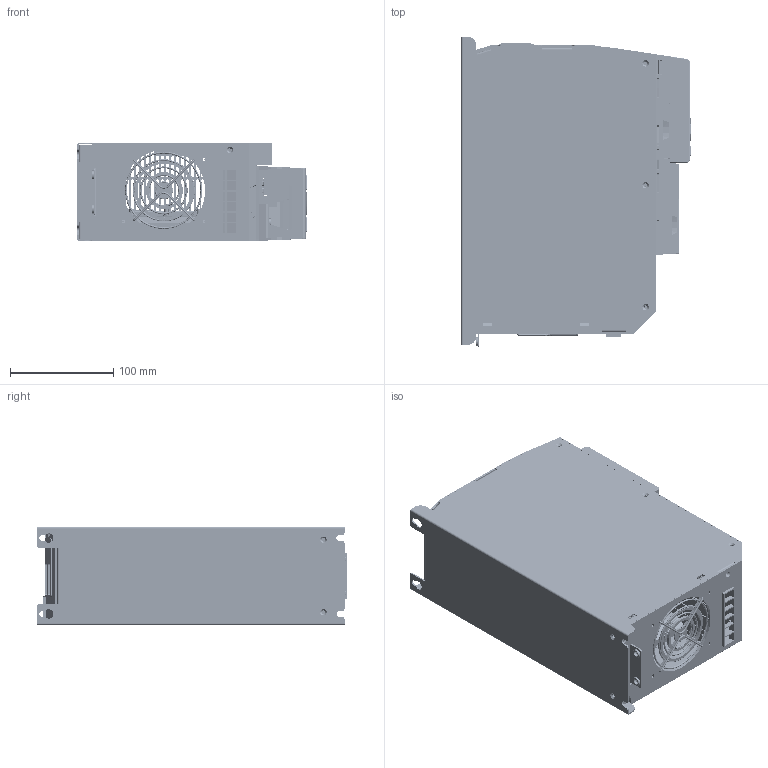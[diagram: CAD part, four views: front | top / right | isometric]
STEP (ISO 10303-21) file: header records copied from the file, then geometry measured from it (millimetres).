
FILE_DESCRIPTION (( 'STEP AP214' ), '1' );
FILE_NAME ('H120-7.5-15kw.STEP', '2022-12-07T08:27:15', ( '微软用户' ), ( '微软中国' ), 'SwSTEP 2.0', 'SolidWorks 2018', '' );
FILE_SCHEMA (( 'AUTOMOTIVE_DESIGN' ));
Length unit declared in the file: millimetre
Products named in the file (44): M3X3mm腔肣蹟譫-耀撿-led-2-20190506; H120-7.5-15kw; 黃蕾そ-201904119; 菁啣-led-2-20190506; pan head cross recess screw_iso_ISO 7045 - M2 x 8 - Z - 8N; 阨儒芛-耀撿-led-2-20190506; 諷秶啣郪璃4-20190309-2019031920190328; 俋褲1-led-2-20190506; M3X3mm腔肣蹟譫-耀撿-20190313-2019031920190328; 路え-20210531; 偌瑩諷秶啣; ｵｲｷ酥ｬﾗｰﾅ萠螢ｨｶﾆﾐｿｰ螢ｩ; 菁啣-20190311-2019031920190328; 結瑞え-20491214; 寡蝶-20190309-2019031920190328; m5揤穩櫅譫; 阨儒芛-耀撿-20190313-2019031920190328; 瑞圮裔啣; 囀褲1-2019031920190328_湮そ; cross recessed countersunk head screws gb2_GB_CROSS_SCREWS_TYPE10 M5X12-9.3-H1-N; 俋褲1-2019031920190328; M4X17腔肣蹟翐20190328; JIANPANZUOGAI_4-2018031820190328; m3x12腔蹟隊20190328; ANNIUZUOKE_26-2018031820190328; 模具最新更改-卢工-2018031820190328; 眊极; PLTBH1.5-3.5-4PIN; 瑞圮假蚾欶-20221105; 樟萇ん; 偌瑩瑩攫郪璃-led-2-20190506; 沺啣驗芨; 菁釱2019506; 寡蝶-20200107; 階褲20190328俋褲1-20190328; 菁啣-2019032220190328; LED囀褲俋諶-20190506; 80x80腔瑞圮郪璃20190328; 偌瑩瑩攫郪璃-2019031920190328; LED偌瑩諷秶啣-LCD-2-20190506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
Assembly tree (63 placements, depth 4):
  H120-7.5-15kw
    80x80腔瑞圮郪璃20190328
      80x80瑞圮欶20190328
    眊极
      階褲20190328俋褲1-20190328
      沺啣驗芨
      瑞圮假蚾欶-20221105
    模具最新更改-卢工-2018031820190328
      ANNIUZUOKE_26-2018031820190328
      JIANPANZUOGAI_4-2018031820190328  x2
      偌瑩瑩攫郪璃-2019031920190328
        俋褲1-2019031920190328
        囀褲1-2019031920190328_湮そ
        阨儒芛-耀撿-20190313-2019031920190328
        寡蝶-20190309-2019031920190328
        菁啣-20190311-2019031920190328
        偌瑩諷秶啣
        M3X3mm腔肣蹟譫-耀撿-20190313-2019031920190328  x2
        諷秶啣郪璃4-20190309-2019031920190328
        pan head cross recess screw_iso_ISO 7045 - M2 x 8 - Z - 8N  x4
        黃蕾そ-201904119
        天马威 LCD屏
        LED偌瑩諷秶啣
      菁啣-2019032220190328
      菁釱2019506
      樟萇ん  x2
      PLTBH1.5-3.5-4PIN
      M3X3mm腔肣蹟譫-耀撿-20190313-2019031920190328  x2
    m3x12腔蹟隊20190328
    M4X17腔肣蹟翐20190328  x4
    cross recessed countersunk head screws gb2_GB_CROSS_SCREWS_TYPE10 M5X12-9.3-H1-N  x4
    瑞圮裔啣
    ｵｲｷ酥ｬﾗｰﾅ萠螢ｨｶﾆﾐｿｰ螢ｩ
      m5揤穩櫅譫  x2
      結瑞え-20491214
    路え-20210531
    偌瑩瑩攫郪璃-led-2-20190506
      俋褲1-led-2-20190506
      阨儒芛-耀撿-led-2-20190506
      菁啣-led-2-20190506
      M3X3mm腔肣蹟譫-耀撿-led-2-20190506  x2
      泂え厙諳-20190506
      pan head cross recess screw_iso_ISO 7045 - M2 x 8 - Z - 8N  x4
      LED偌瑩諷秶啣-LCD-2-20190506
      LED囀褲俋諶-20190506
      寡蝶-20200107
Bounding box: 222.2 x 300.46 x 95 mm (x, y, z)
Volume: 738573.1 mm3; surface area: 913850.8 mm2
Topology: 72 solids, 72 shells, 8297 faces, 23067 edges, 15370 vertices
Faces by surface type: plane 5458, cylinder 1698, bspline 693, cone 210, torus 167, sphere 71
Entity records: 281429 total; most frequent: CARTESIAN_POINT 86271, ORIENTED_EDGE 41696, DIRECTION 35651, EDGE_CURVE 20848, LINE 15089, VECTOR 15089, VERTEX_POINT 13986, AXIS2_PLACEMENT_3D 10281
